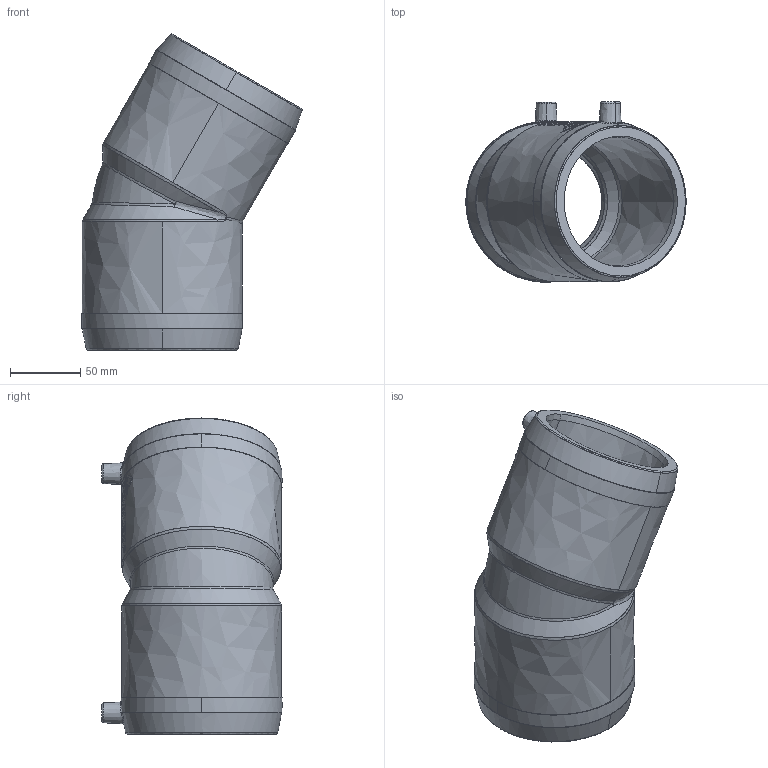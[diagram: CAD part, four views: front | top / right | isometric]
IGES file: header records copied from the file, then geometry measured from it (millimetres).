
Start section:  PTC IGES file: w30_d090_01.igs
Global section: file name: w30_d090_01.igs; native system: Pro/ENGINEER by Parametric Technology Corporation; preprocessor: 2011490; author: mtunjic; organization: Unknown; date: 20130812.095931; units: millimetre
Bounding box: 156.45 x 127.85 x 224.44 mm (x, y, z)
Surface area: 141345.9 mm2 (no closed solid volume)
Topology: 0 solids, 0 shells, 218 faces, 1106 edges, 1106 vertices
Faces by surface type: bspline 218
